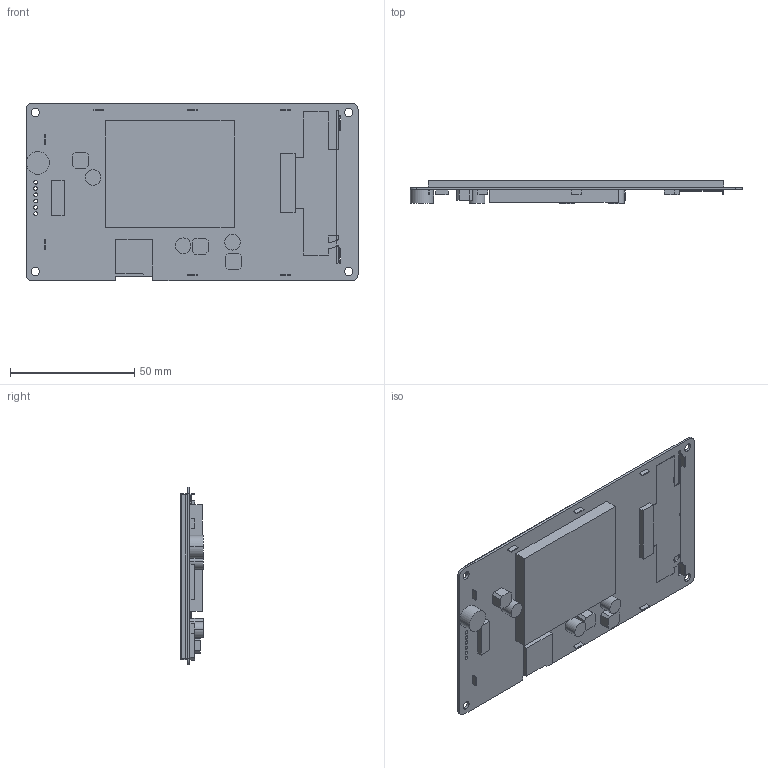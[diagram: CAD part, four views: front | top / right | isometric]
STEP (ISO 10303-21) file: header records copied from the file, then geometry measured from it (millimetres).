
FILE_DESCRIPTION((''),'2;1');
FILE_NAME('DMG12720C050_03WTC','2019-04-28T',('Administrator'),(''),'PRO/ENGINEER BY PARAMETRIC TECHNOLOGY CORPORATION, 2008380','PRO/ENGINEER BY PARAMETRIC TECHNOLOGY CORPORATION, 2008380','');
FILE_SCHEMA(('CONFIG_CONTROL_DESIGN'));
Length unit declared in the file: millimetre
Products named in the file (1): DMG12720C050_03WTC
Bounding box: 133.86 x 9.2 x 71.75 mm (x, y, z)
Volume: 36390 mm3; surface area: 41688.2 mm2
Topology: 1 solids, 1 shells, 207 faces, 593 edges, 412 vertices
Faces by surface type: plane 162, cylinder 45
Entity records: 7117 total; most frequent: CARTESIAN_POINT 1187, ORIENTED_EDGE 1150, DIRECTION 1104, EDGE_CURVE 575, VECTOR 492, LINE 492, VERTEX_POINT 380, AXIS2_PLACEMENT_3D 306
